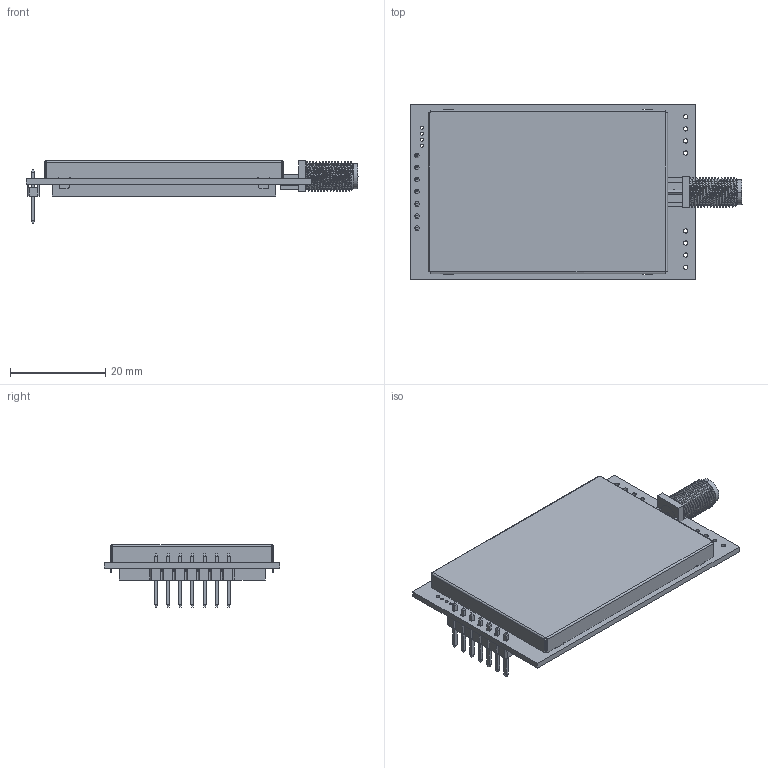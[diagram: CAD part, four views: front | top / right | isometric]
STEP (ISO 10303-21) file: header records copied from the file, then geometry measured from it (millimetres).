
FILE_DESCRIPTION(('Open CASCADE Model'),'2;1');
FILE_NAME('Open CASCADE Shape Model','2024-05-09T11:43:38',('Author'),( 'Open CASCADE'),'Open CASCADE STEP processor 6.8','Open CASCADE 6.8' ,'Unknown');
FILE_SCHEMA(('AUTOMOTIVE_DESIGN { 1 0 10303 214 1 1 1 1 }'));
Length unit declared in the file: millimetre
Products named in the file (130): PCB; Board; L3; User_Library-Chip_InductorINDC2520X220N; L13; L16; User_Library-Chip_InductorINDC2012X95N; Designator1; PBZ-13; Designator6; 毞盄釱4; C1; CAPC1005X56N_EIA_0402; C2; C3; CAPC1608X92N_EIA_0603; C4; C7; C8; C9; C10; C11; C12; C13; C14; C15; C16; C17; C18; C19; C20; C21; C23; C24; C25; C28; C29; C31; C32; C33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
Assembly tree (221 placements, depth 4):
  PCB
    Board
    L3
      User_Library-Chip_InductorINDC2520X220N
    L13
      User_Library-Chip_InductorINDC2520X220N
    L16
      User_Library-Chip_InductorINDC2012X95N
    Designator1
      PBZ-13
    Designator6
      毞盄釱4
      毞盄釱4
    C1
      CAPC1005X56N_EIA_0402
    C2
      CAPC1005X56N_EIA_0402
    C3
      CAPC1608X92N_EIA_0603
    C4
      CAPC1005X56N_EIA_0402
    C7
      CAPC1005X56N_EIA_0402
    C8
      CAPC1005X56N_EIA_0402
    C9
      CAPC1005X56N_EIA_0402
    C10
      CAPC1005X56N_EIA_0402
    C11
      CAPC1608X92N_EIA_0603
    C12
      CAPC1005X56N_EIA_0402
    C13
      CAPC1005X56N_EIA_0402
    C14
      CAPC1005X56N_EIA_0402
    C15
      CAPC1005X56N_EIA_0402
    C16
      CAPC1608X92N_EIA_0603
    C17
      CAPC1608X92N_EIA_0603
    C18
      CAPC1608X92N_EIA_0603
    C19
      CAPC1005X56N_EIA_0402
    C20
      CAPC1608X92N_EIA_0603
    C21
      CAPC1005X56N_EIA_0402
    C23
      CAPC1608X92N_EIA_0603
    C24
      CAPC1608X92N_EIA_0603
    C25
      CAPC1608X92N_EIA_0603
    C28
      CAPC1005X56N_EIA_0402
    C29
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Bounding box: 69.81 x 37 x 13.1 mm (x, y, z)
Volume: 7482.9 mm3; surface area: 14714.8 mm2
Topology: 132 solids, 132 shells, 5911 faces, 13624 edges, 7473 vertices
Faces by surface type: plane 2664, cylinder 1873, bspline 699, sphere 660, torus 12, cone 3
Full cylindrical faces by diameter (mm): 0.65 x4, 0.9 x15, 1 x1, 3.2 x4
Entity records: 171266 total; most frequent: CARTESIAN_POINT 93818, DIRECTION 11213, ORIENTED_EDGE 7180, PCURVE 7180, DEFINITIONAL_REPRESENTATION 7180, LINE 6955, VECTOR 6955, EDGE_CURVE 3590
